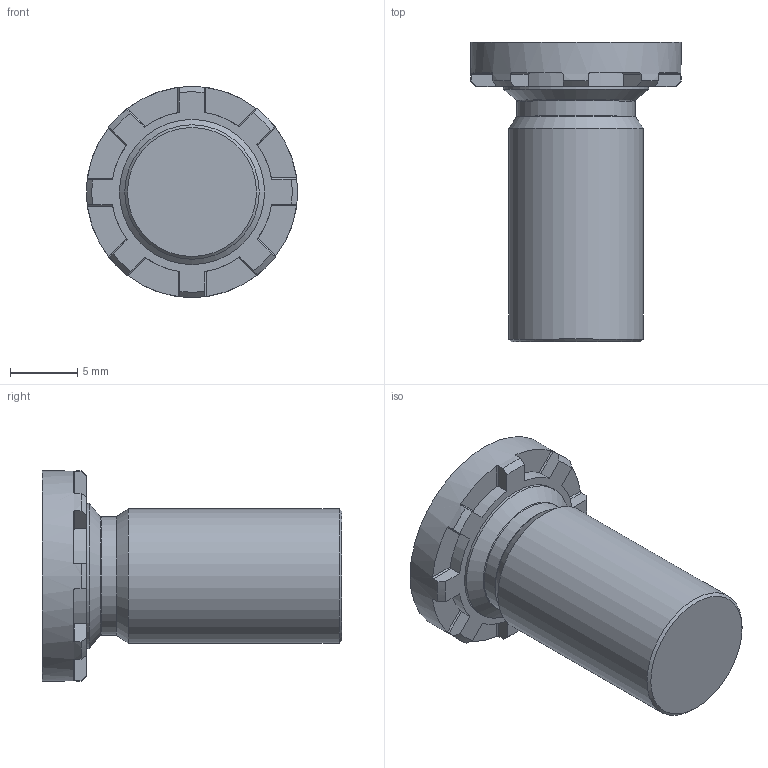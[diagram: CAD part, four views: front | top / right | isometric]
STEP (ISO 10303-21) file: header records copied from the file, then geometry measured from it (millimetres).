
FILE_DESCRIPTION(/* description */ (''),/* implementation_level */ '2;1');
FILE_NAME(/* name */ 'C:\Users\keval.kumar\Desktop\Fastit\Clinch Screw- HFH Range\M10\Clinch Screw-HFH Range_M10x20.stp',/* time_stamp */ '2024-03-12T15:11:52+06:00',/* author */ ('keval.kumar'),/* organization */ (''),/* preprocessor_version */ 'ST-DEVELOPER v18.1',/* originating_system */ 'Autodesk Inventor 2022',/* authorisation */ '');
FILE_SCHEMA (('AUTOMOTIVE_DESIGN { 1 0 10303 214 3 1 1 }'));
Length unit declared in the file: millimetre
Products named in the file (1): Clinch Screw-HFH Range_M10x20
Bounding box: 15.7 x 22.29 x 15.7 mm (x, y, z)
Volume: 2045.7 mm3; surface area: 1154.8 mm2
Topology: 1 solids, 1 shells, 68 faces, 193 edges, 128 vertices
Faces by surface type: plane 43, cylinder 12, cone 11, torus 2
Full cylindrical faces by diameter (mm): 8.8 x1, 10 x1, 10.8 x1, 15.7 x1
Entity records: 2278 total; most frequent: CARTESIAN_POINT 422, DIRECTION 405, ORIENTED_EDGE 386, EDGE_CURVE 193, AXIS2_PLACEMENT_3D 159, VERTEX_POINT 128, LINE 87, VECTOR 87
